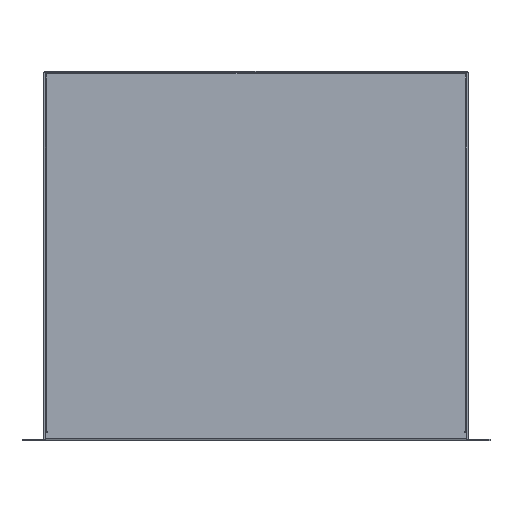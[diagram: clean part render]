
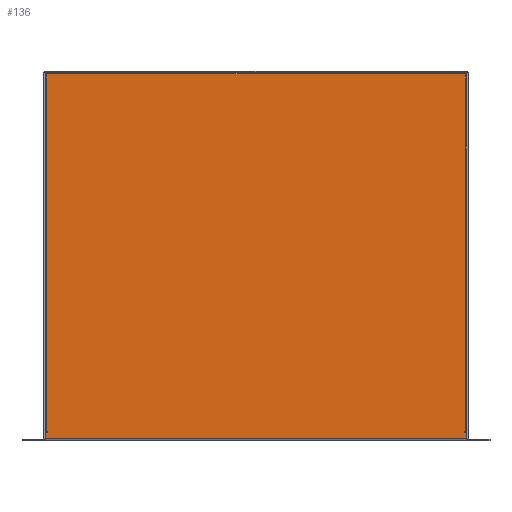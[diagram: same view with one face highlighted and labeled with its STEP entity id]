
A CAD part, top view. The second image highlights one B-rep face of the part: STEP entity #136.
In plain terms, the highlighted planar face has unit normal (0, 0, 1).
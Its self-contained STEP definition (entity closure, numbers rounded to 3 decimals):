
#136 = ADVANCED_FACE( '', ( #349 ), #350, .T. );
#349 = FACE_OUTER_BOUND( '', #655, .T. );
#350 = PLANE( '', #656 );
#655 = EDGE_LOOP( '', ( #953, #954, #955, #956, #957, #958, #959, #960, #961, #962 ) );
#656 = AXIS2_PLACEMENT_3D( '', #963, #964, #965 );
#953 = ORIENTED_EDGE( '', *, *, #1841, .T. );
#954 = ORIENTED_EDGE( '', *, *, #1842, .T. );
#955 = ORIENTED_EDGE( '', *, *, #1843, .T. );
#956 = ORIENTED_EDGE( '', *, *, #1844, .T. );
#957 = ORIENTED_EDGE( '', *, *, #1845, .T. );
#958 = ORIENTED_EDGE( '', *, *, #1846, .T. );
#959 = ORIENTED_EDGE( '', *, *, #1847, .T. );
#960 = ORIENTED_EDGE( '', *, *, #1848, .F. );
#961 = ORIENTED_EDGE( '', *, *, #1849, .F. );
#962 = ORIENTED_EDGE( '', *, *, #1850, .T. );
#963 = CARTESIAN_POINT( '', ( -217.488, -189.89, 0. ) );
#964 = DIRECTION( '', ( 0., 0., 1. ) );
#965 = DIRECTION( '', ( 1., 0., 0. ) );
#1841 = EDGE_CURVE( '', #2191, #2192, #2193, .T. );
#1842 = EDGE_CURVE( '', #2192, #2194, #2195, .T. );
#1843 = EDGE_CURVE( '', #2194, #2196, #2197, .T. );
#1844 = EDGE_CURVE( '', #2196, #2198, #2199, .T. );
#1845 = EDGE_CURVE( '', #2198, #2200, #2201, .T. );
#1846 = EDGE_CURVE( '', #2200, #2202, #2203, .T. );
#1847 = EDGE_CURVE( '', #2202, #2204, #2205, .T. );
#1848 = EDGE_CURVE( '', #2206, #2204, #2207, .T. );
#1849 = EDGE_CURVE( '', #2208, #2206, #2209, .T. );
#1850 = EDGE_CURVE( '', #2208, #2191, #2210, .T. );
#2191 = VERTEX_POINT( '', #2709 );
#2192 = VERTEX_POINT( '', #2710 );
#2193 = LINE( '', #2711, #2712 );
#2194 = VERTEX_POINT( '', #2713 );
#2195 = LINE( '', #2714, #2715 );
#2196 = VERTEX_POINT( '', #2716 );
#2197 = CIRCLE( '', #2717, 0.381 );
#2198 = VERTEX_POINT( '', #2718 );
#2199 = LINE( '', #2719, #2720 );
#2200 = VERTEX_POINT( '', #2721 );
#2201 = LINE( '', #2722, #2723 );
#2202 = VERTEX_POINT( '', #2724 );
#2203 = LINE( '', #2725, #2726 );
#2204 = VERTEX_POINT( '', #2727 );
#2205 = LINE( '', #2728, #2729 );
#2206 = VERTEX_POINT( '', #2730 );
#2207 = LINE( '', #2731, #2732 );
#2208 = VERTEX_POINT( '', #2733 );
#2209 = CIRCLE( '', #2734, 0.381 );
#2210 = LINE( '', #2735, #2736 );
#2709 = CARTESIAN_POINT( '', ( 215.659, 188.062, 0. ) );
#2710 = CARTESIAN_POINT( '', ( -215.659, 188.062, 0. ) );
#2711 = CARTESIAN_POINT( '', ( 217.488, 188.062, 0. ) );
#2712 = VECTOR( '', #3422, 1000. );
#2713 = CARTESIAN_POINT( '', ( -215.659, -180.721, 0. ) );
#2714 = CARTESIAN_POINT( '', ( -215.659, 188.062, 0. ) );
#2715 = VECTOR( '', #3423, 1000. );
#2716 = CARTESIAN_POINT( '', ( -215.659, -181.483, 0. ) );
#2717 = AXIS2_PLACEMENT_3D( '', #3424, #3425, #3426 );
#2718 = CARTESIAN_POINT( '', ( -217.488, -181.483, 0. ) );
#2719 = CARTESIAN_POINT( '', ( -215.659, -181.483, 0. ) );
#2720 = VECTOR( '', #3427, 1000. );
#2721 = CARTESIAN_POINT( '', ( -217.488, -188.062, 0. ) );
#2722 = CARTESIAN_POINT( '', ( -217.488, 189.89, 0. ) );
#2723 = VECTOR( '', #3428, 1000. );
#2724 = CARTESIAN_POINT( '', ( 217.488, -188.062, 0. ) );
#2725 = CARTESIAN_POINT( '', ( -217.488, -188.062, 0. ) );
#2726 = VECTOR( '', #3429, 1000. );
#2727 = CARTESIAN_POINT( '', ( 217.488, -181.483, 0. ) );
#2728 = CARTESIAN_POINT( '', ( 217.488, -189.89, 0. ) );
#2729 = VECTOR( '', #3430, 1000. );
#2730 = CARTESIAN_POINT( '', ( 215.659, -181.483, 0. ) );
#2731 = CARTESIAN_POINT( '', ( 215.659, -181.483, 0. ) );
#2732 = VECTOR( '', #3431, 1000. );
#2733 = CARTESIAN_POINT( '', ( 215.659, -180.721, 0. ) );
#2734 = AXIS2_PLACEMENT_3D( '', #3432, #3433, #3434 );
#2735 = CARTESIAN_POINT( '', ( 215.659, -180.721, 0. ) );
#2736 = VECTOR( '', #3435, 1000. );
#3422 = DIRECTION( '', ( -1., 0., 0. ) );
#3423 = DIRECTION( '', ( 0., -1., 0. ) );
#3424 = CARTESIAN_POINT( '', ( -215.659, -181.102, 0. ) );
#3425 = DIRECTION( '', ( 0., 0., -1. ) );
#3426 = DIRECTION( '', ( 0., 1., 0. ) );
#3427 = DIRECTION( '', ( -1., 0., 0. ) );
#3428 = DIRECTION( '', ( 0., -1., 0. ) );
#3429 = DIRECTION( '', ( 1., 0., 0. ) );
#3430 = DIRECTION( '', ( 0., 1., 0. ) );
#3431 = DIRECTION( '', ( 1., 0., 0. ) );
#3432 = CARTESIAN_POINT( '', ( 215.659, -181.102, 0. ) );
#3433 = DIRECTION( '', ( 0., 0., 1. ) );
#3434 = DIRECTION( '', ( 0., 1., 0. ) );
#3435 = DIRECTION( '', ( 0., 1., 0. ) );
